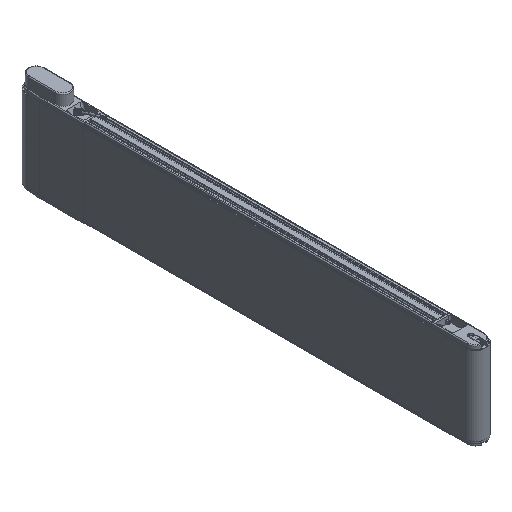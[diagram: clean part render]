
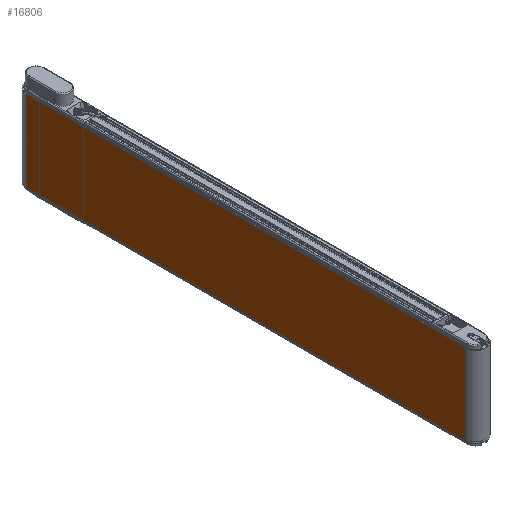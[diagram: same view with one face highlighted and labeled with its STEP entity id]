
A CAD part, isometric view. The second image highlights one B-rep face of the part: STEP entity #16806.
In plain terms, the highlighted planar face has unit normal (-1, 0, 0).
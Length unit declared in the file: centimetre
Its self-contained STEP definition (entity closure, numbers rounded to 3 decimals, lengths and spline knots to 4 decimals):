
#830=LINE('',#25059,#2102);
#831=LINE('',#25064,#2103);
#833=LINE('',#25068,#2105);
#834=LINE('',#25069,#2106);
#2102=VECTOR('',#20184,1.);
#2103=VECTOR('',#20189,1.);
#2105=VECTOR('',#20193,1.);
#2106=VECTOR('',#20194,1.);
#3631=FACE_OUTER_BOUND('',#4561,.T.);
#4561=EDGE_LOOP('',(#11225,#11226,#11227,#11228));
#6586=VERTEX_POINT('',#25053);
#6588=VERTEX_POINT('',#25057);
#6590=VERTEX_POINT('',#25062);
#6591=VERTEX_POINT('',#25067);
#8385=EDGE_CURVE('',#6586,#6588,#830,.T.);
#8387=EDGE_CURVE('',#6590,#6588,#831,.T.);
#8389=EDGE_CURVE('',#6590,#6591,#833,.T.);
#8390=EDGE_CURVE('',#6591,#6586,#834,.T.);
#11225=ORIENTED_EDGE('',*,*,#8389,.T.);
#11226=ORIENTED_EDGE('',*,*,#8390,.T.);
#11227=ORIENTED_EDGE('',*,*,#8385,.T.);
#11228=ORIENTED_EDGE('',*,*,#8387,.F.);
#15388=PLANE('',#17933);
#16806=ADVANCED_FACE('',(#3631),#15388,.T.);
#17933=AXIS2_PLACEMENT_3D('',#25066,#20191,#20192);
#20184=DIRECTION('',(0.,1.,0.));
#20189=DIRECTION('',(0.,0.,1.));
#20191=DIRECTION('center_axis',(-1.,0.,0.));
#20192=DIRECTION('ref_axis',(0.,0.,
1.));
#20193=DIRECTION('',(0.,-1.,0.));
#20194=DIRECTION('',(0.,0.,1.));
#25053=CARTESIAN_POINT('',(-2.33,-87.,9.25));
#25057=CARTESIAN_POINT('',(-2.33,13.,9.25));
#25059=CARTESIAN_POINT('',(-2.33,13.,9.25));
#25062=CARTESIAN_POINT('',(-2.33,13.,-9.25));
#25064=CARTESIAN_POINT('',(-2.33,13.,0.));
#25066=CARTESIAN_POINT('Origin',(-2.33,13.,0.));
#25067=CARTESIAN_POINT('',(-2.33,-87.,-9.25));
#25068=CARTESIAN_POINT('',(-2.33,13.,-9.25));
#25069=CARTESIAN_POINT('',(-2.33,-87.,0.));
